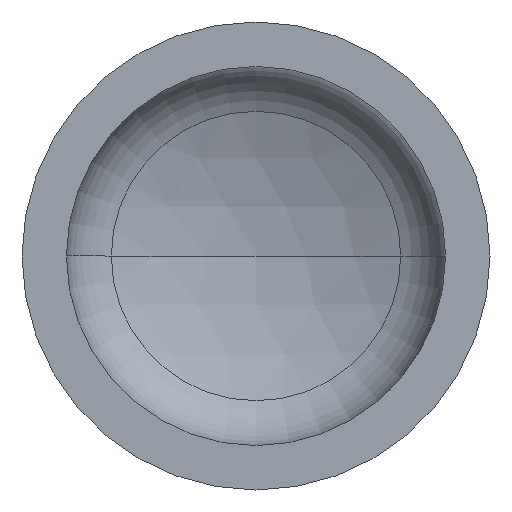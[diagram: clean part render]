
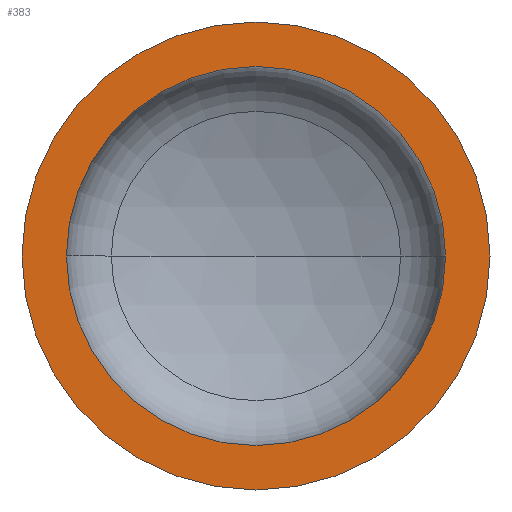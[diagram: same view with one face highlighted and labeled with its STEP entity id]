
A CAD part, front view. The second image highlights one B-rep face of the part: STEP entity #383.
In plain terms, the highlighted planar face has unit normal (0, -1, 0).
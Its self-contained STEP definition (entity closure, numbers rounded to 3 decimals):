
#11 = ORIENTED_EDGE ( 'NONE', *, *, #371, .T. ) ;
#12 = AXIS2_PLACEMENT_3D ( 'NONE', #304, #233, #172 ) ;
#45 = VERTEX_POINT ( 'NONE', #253 ) ;
#58 = EDGE_LOOP ( 'NONE', ( #123, #60 ) ) ;
#60 = ORIENTED_EDGE ( 'NONE', *, *, #342, .F. ) ;
#76 = AXIS2_PLACEMENT_3D ( 'NONE', #211, #377, #378 ) ;
#77 = AXIS2_PLACEMENT_3D ( 'NONE', #348, #341, #352 ) ;
#92 = VERTEX_POINT ( 'NONE', #232 ) ;
#101 = VERTEX_POINT ( 'NONE', #294 ) ;
#107 = EDGE_CURVE ( 'NONE', #45, #92, #154, .T. ) ;
#111 = EDGE_CURVE ( 'NONE', #101, #148, #306, .T. ) ;
#123 = ORIENTED_EDGE ( 'NONE', *, *, #111, .F. ) ;
#127 = ORIENTED_EDGE ( 'NONE', *, *, #107, .T. ) ;
#132 = PLANE ( 'NONE',  #289 ) ;
#148 = VERTEX_POINT ( 'NONE', #209 ) ;
#154 = CIRCLE ( 'NONE', #77, 400. ) ;
#172 = DIRECTION ( 'NONE',  ( 1., 0., 0. ) ) ;
#195 = FACE_BOUND ( 'NONE', #58, .T. ) ;
#198 = DIRECTION ( 'NONE',  ( 0., -1., 0. ) ) ;
#208 = CIRCLE ( 'NONE', #12, 324. ) ;
#209 = CARTESIAN_POINT ( 'NONE',  ( -324., 0., 0. ) ) ;
#211 = CARTESIAN_POINT ( 'NONE',  ( 0., 0., 0. ) ) ;
#229 = AXIS2_PLACEMENT_3D ( 'NONE', #347, #198, #367 ) ;
#232 = CARTESIAN_POINT ( 'NONE',  ( 400., 0., 0. ) ) ;
#233 = DIRECTION ( 'NONE',  ( 0., -1., 0. ) ) ;
#244 = DIRECTION ( 'NONE',  ( 0., 1., 0. ) ) ;
#253 = CARTESIAN_POINT ( 'NONE',  ( -400., 0., 0. ) ) ;
#289 = AXIS2_PLACEMENT_3D ( 'NONE', #313, #244, #410 ) ;
#294 = CARTESIAN_POINT ( 'NONE',  ( 324., 0., 0. ) ) ;
#304 = CARTESIAN_POINT ( 'NONE',  ( 0., 0., 0. ) ) ;
#306 = CIRCLE ( 'NONE', #76, 324. ) ;
#313 = CARTESIAN_POINT ( 'NONE',  ( -400., 0., 0. ) ) ;
#341 = DIRECTION ( 'NONE',  ( 0., -1., 0. ) ) ;
#342 = EDGE_CURVE ( 'NONE', #148, #101, #208, .T. ) ;
#347 = CARTESIAN_POINT ( 'NONE',  ( 0., 0., 0. ) ) ;
#348 = CARTESIAN_POINT ( 'NONE',  ( 0., 0., 0. ) ) ;
#352 = DIRECTION ( 'NONE',  ( 1., 0., 0. ) ) ;
#367 = DIRECTION ( 'NONE',  ( 1., 0., 0. ) ) ;
#371 = EDGE_CURVE ( 'NONE', #92, #45, #379, .T. ) ;
#372 = FACE_OUTER_BOUND ( 'NONE', #391, .T. ) ;
#377 = DIRECTION ( 'NONE',  ( 0., -1., 0. ) ) ;
#378 = DIRECTION ( 'NONE',  ( 1., 0., 0. ) ) ;
#379 = CIRCLE ( 'NONE', #229, 400. ) ;
#383 = ADVANCED_FACE ( 'NONE', ( #195, #372 ), #132, .F. ) ;
#391 = EDGE_LOOP ( 'NONE', ( #11, #127 ) ) ;
#410 = DIRECTION ( 'NONE',  ( -1., 0., 0. ) ) ;
